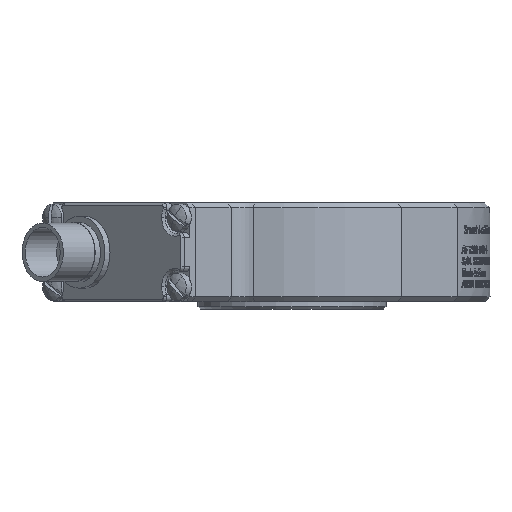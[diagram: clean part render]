
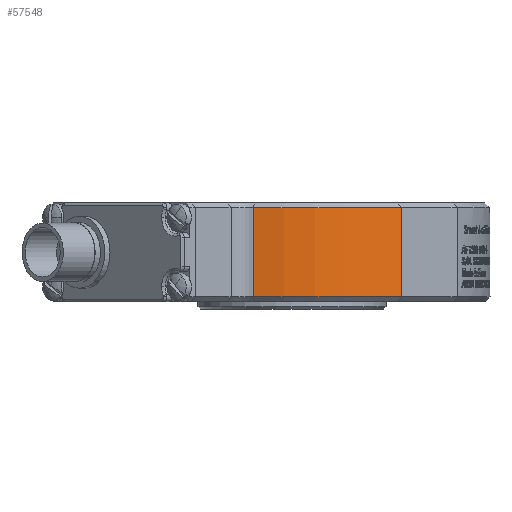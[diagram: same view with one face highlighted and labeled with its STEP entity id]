
A CAD part, front view. The second image highlights one B-rep face of the part: STEP entity #57548.
In plain terms, the highlighted cylindrical face has radius 40 mm (diameter 80 mm), a partial arc.
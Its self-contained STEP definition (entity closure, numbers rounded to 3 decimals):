
#2509 = DIRECTION ( 'NONE',  ( -1., 0., 0. ) ) ;
#7013 = DIRECTION ( 'NONE',  ( 0., 0., -1. ) ) ;
#7330 = FACE_OUTER_BOUND ( 'NONE', #67731, .T. ) ;
#11118 = CARTESIAN_POINT ( 'NONE',  ( -7.804, -39.231, -6.75 ) ) ;
#13570 = CARTESIAN_POINT ( 'NONE',  ( 0., 0., -6.75 ) ) ;
#15703 = VERTEX_POINT ( 'NONE', #140704 ) ;
#17431 = ORIENTED_EDGE ( 'NONE', *, *, #17633, .T. ) ;
#17633 = EDGE_CURVE ( 'NONE', #15703, #55244, #152920, .T. ) ;
#21170 = EDGE_CURVE ( 'NONE', #15703, #119624, #155388, .T. ) ;
#51062 = EDGE_CURVE ( 'NONE', #127319, #119624, #68798, .T. ) ;
#54167 = ORIENTED_EDGE ( 'NONE', *, *, #21170, .F. ) ;
#55244 = VERTEX_POINT ( 'NONE', #76801 ) ;
#55496 = DIRECTION ( 'NONE',  ( 0., 0., -1. ) ) ;
#57548 = ADVANCED_FACE ( 'NONE', ( #7330 ), #151673, .T. ) ;
#60031 = EDGE_CURVE ( 'NONE', #55244, #127319, #61289, .T. ) ;
#61289 = LINE ( 'NONE', #133006, #144282 ) ;
#67383 = AXIS2_PLACEMENT_3D ( 'NONE', #91433, #7013, #151359 ) ;
#67731 = EDGE_LOOP ( 'NONE', ( #54167, #17431, #103503, #143065 ) ) ;
#68798 = CIRCLE ( 'NONE', #141827, 40. ) ;
#76801 = CARTESIAN_POINT ( 'NONE',  ( -7.804, -39.231, 11.25 ) ) ;
#79281 = CARTESIAN_POINT ( 'NONE',  ( 22.09, -33.347, -6.75 ) ) ;
#79917 = CARTESIAN_POINT ( 'NONE',  ( 0., 0., 3. ) ) ;
#85354 = DIRECTION ( 'NONE',  ( 0., 0., 1. ) ) ;
#89403 = DIRECTION ( 'NONE',  ( 0., 0., -1. ) ) ;
#91433 = CARTESIAN_POINT ( 'NONE',  ( 0., 0., 11.25 ) ) ;
#103503 = ORIENTED_EDGE ( 'NONE', *, *, #60031, .T. ) ;
#104224 = CARTESIAN_POINT ( 'NONE',  ( 22.09, -33.347, 28.17 ) ) ;
#117062 = AXIS2_PLACEMENT_3D ( 'NONE', #79917, #55496, #127967 ) ;
#117570 = DIRECTION ( 'NONE',  ( 0., 0., -1. ) ) ;
#119624 = VERTEX_POINT ( 'NONE', #79281 ) ;
#127319 = VERTEX_POINT ( 'NONE', #11118 ) ;
#127967 = DIRECTION ( 'NONE',  ( -1., 0., 0. ) ) ;
#130075 = VECTOR ( 'NONE', #117570, 1000. ) ;
#133006 = CARTESIAN_POINT ( 'NONE',  ( -7.804, -39.231, 3. ) ) ;
#140704 = CARTESIAN_POINT ( 'NONE',  ( 22.09, -33.347, 11.25 ) ) ;
#141827 = AXIS2_PLACEMENT_3D ( 'NONE', #13570, #85354, #2509 ) ;
#143065 = ORIENTED_EDGE ( 'NONE', *, *, #51062, .T. ) ;
#144282 = VECTOR ( 'NONE', #89403, 1000. ) ;
#151359 = DIRECTION ( 'NONE',  ( 1., 0., 0. ) ) ;
#151673 = CYLINDRICAL_SURFACE ( 'NONE', #117062, 40. ) ;
#152920 = CIRCLE ( 'NONE', #67383, 40. ) ;
#155388 = LINE ( 'NONE', #104224, #130075 ) ;
